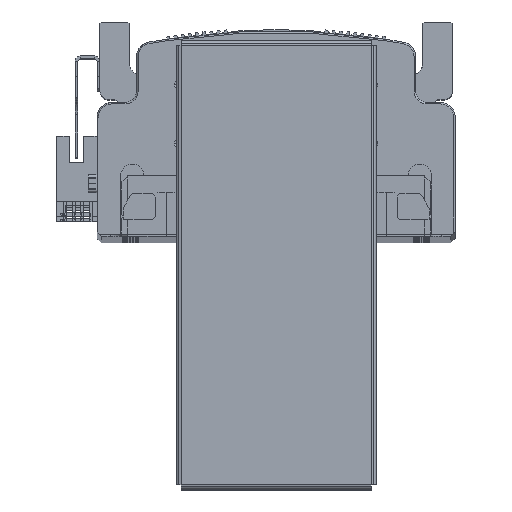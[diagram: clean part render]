
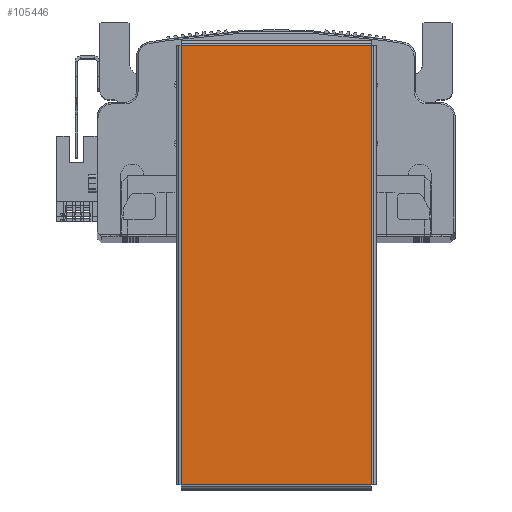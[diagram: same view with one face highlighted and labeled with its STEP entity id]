
A CAD part, top view. The second image highlights one B-rep face of the part: STEP entity #105446.
In plain terms, the highlighted planar face has unit normal (0, 0, 1) as drawn and (0, 0, -1) by its records, which use the part's own axes.
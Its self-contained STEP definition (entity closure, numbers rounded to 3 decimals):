
#13793 = EDGE_LOOP ( 'NONE', ( #102152, #102075, #102062, #102103 ) ) ;
#16087 = PLANE ( 'NONE',  #87731 ) ;
#16103 = DIRECTION ( 'NONE',  ( 1., 0., 0. ) ) ;
#16108 = DIRECTION ( 'NONE',  ( 0., 0., 1. ) ) ;
#16114 = CARTESIAN_POINT ( 'NONE',  ( 0., 0., -1. ) ) ;
#61873 = CARTESIAN_POINT ( 'NONE',  ( 74.763, 32.363, -1. ) ) ;
#63709 = CARTESIAN_POINT ( 'NONE',  ( -74.763, -32.363, -1. ) ) ;
#63712 = CARTESIAN_POINT ( 'NONE',  ( 74.763, -32.363, -1. ) ) ;
#63777 = CARTESIAN_POINT ( 'NONE',  ( -74.763, 32.363, -1. ) ) ;
#66239 = VECTOR ( 'NONE', #72666, 1000. ) ;
#67414 = LINE ( 'NONE', #72693, #67432 ) ;
#67432 = VECTOR ( 'NONE', #72756, 1000. ) ;
#67502 = LINE ( 'NONE', #72588, #66239 ) ;
#72588 = CARTESIAN_POINT ( 'NONE',  ( -74.763, -32.393, -1. ) ) ;
#72666 = DIRECTION ( 'NONE',  ( 0., 1., 0. ) ) ;
#72693 = CARTESIAN_POINT ( 'NONE',  ( 74.763, 32.393, -1. ) ) ;
#72756 = DIRECTION ( 'NONE',  ( 0., -1., 0. ) ) ;
#73020 = DIRECTION ( 'NONE',  ( 1., 0., 0. ) ) ;
#73053 = CARTESIAN_POINT ( 'NONE',  ( -74.793, 32.363, -1. ) ) ;
#73124 = DIRECTION ( 'NONE',  ( -1., 0., 0. ) ) ;
#73134 = CARTESIAN_POINT ( 'NONE',  ( 74.793, -32.363, -1. ) ) ;
#75358 = LINE ( 'NONE', #73134, #75360 ) ;
#75360 = VECTOR ( 'NONE', #73124, 1000. ) ;
#75377 = VECTOR ( 'NONE', #73020, 1000. ) ;
#75383 = LINE ( 'NONE', #73053, #75377 ) ;
#80500 = FACE_OUTER_BOUND ( 'NONE', #13793, .T. ) ;
#87731 = AXIS2_PLACEMENT_3D ( 'NONE', #16114, #16108, #16103 ) ;
#98631 = VERTEX_POINT ( 'NONE', #61873 ) ;
#98665 = VERTEX_POINT ( 'NONE', #63709 ) ;
#98675 = VERTEX_POINT ( 'NONE', #63712 ) ;
#98697 = VERTEX_POINT ( 'NONE', #63777 ) ;
#102062 = ORIENTED_EDGE ( 'NONE', *, *, #102725, .T. ) ;
#102075 = ORIENTED_EDGE ( 'NONE', *, *, #102799, .T. ) ;
#102103 = ORIENTED_EDGE ( 'NONE', *, *, #102777, .T. ) ;
#102152 = ORIENTED_EDGE ( 'NONE', *, *, #102724, .T. ) ;
#102724 = EDGE_CURVE ( 'NONE', #98631, #98675, #67414, .T. ) ;
#102725 = EDGE_CURVE ( 'NONE', #98665, #98697, #67502, .T. ) ;
#102777 = EDGE_CURVE ( 'NONE', #98697, #98631, #75383, .T. ) ;
#102799 = EDGE_CURVE ( 'NONE', #98675, #98665, #75358, .T. ) ;
#105446 = ADVANCED_FACE ( 'NONE', ( #80500 ), #16087, .F. ) ;
